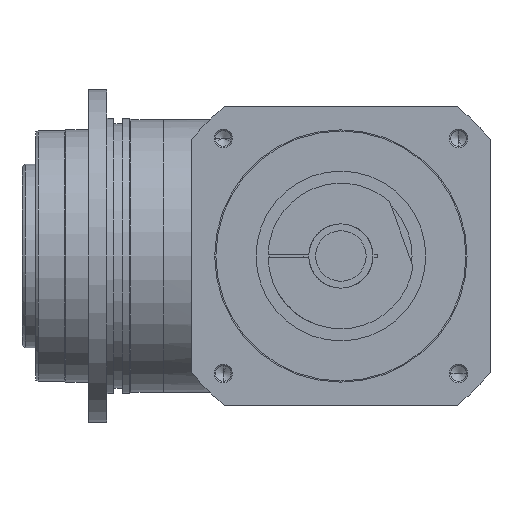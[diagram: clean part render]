
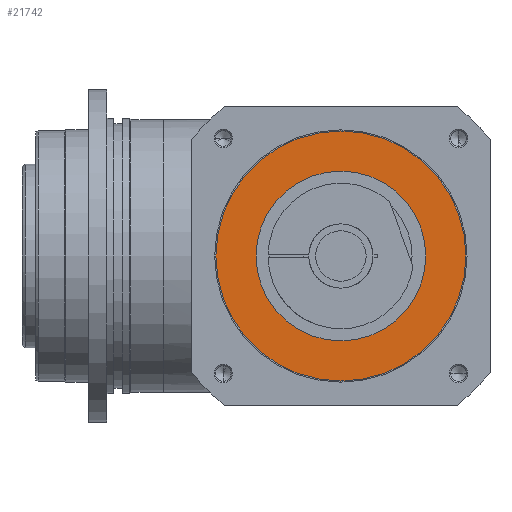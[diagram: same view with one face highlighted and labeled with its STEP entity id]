
A CAD part, front view. The second image highlights one B-rep face of the part: STEP entity #21742.
In plain terms, the highlighted planar face has unit normal (0, -1, 0).
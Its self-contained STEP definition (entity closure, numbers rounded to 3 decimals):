
#107 = FACE_BOUND ( 'NONE', #5417, .T. ) ;
#225 = DIRECTION ( 'NONE',  ( 0., 0., 1. ) ) ;
#653 = CIRCLE ( 'NONE', #7243, 54.5 ) ;
#1167 = EDGE_CURVE ( 'NONE', #18588, #18134, #13008, .T. ) ;
#1275 = FACE_OUTER_BOUND ( 'NONE', #15129, .T. ) ;
#1525 = AXIS2_PLACEMENT_3D ( 'NONE', #10278, #6584, #2664 ) ;
#1542 = EDGE_CURVE ( 'NONE', #15206, #21410, #653, .T. ) ;
#1938 = CARTESIAN_POINT ( 'NONE',  ( 77.5, -120.5, 37. ) ) ;
#2664 = DIRECTION ( 'NONE',  ( 0., 0., 1. ) ) ;
#2848 = CARTESIAN_POINT ( 'NONE',  ( 77.5, -120.5, 0. ) ) ;
#4699 = CARTESIAN_POINT ( 'NONE',  ( 77.5, -120.5, 0. ) ) ;
#4783 = DIRECTION ( 'NONE',  ( 0., 1., 0. ) ) ;
#5126 = CARTESIAN_POINT ( 'NONE',  ( 77.5, -120.5, -37. ) ) ;
#5414 = CIRCLE ( 'NONE', #16588, 54.5 ) ;
#5417 = EDGE_LOOP ( 'NONE', ( #20786, #14919 ) ) ;
#5442 = CARTESIAN_POINT ( 'NONE',  ( 77.5, -120.5, 0. ) ) ;
#5945 = CARTESIAN_POINT ( 'NONE',  ( 77.5, -120.5, 0. ) ) ;
#6584 = DIRECTION ( 'NONE',  ( 0., 1., 0. ) ) ;
#6702 = DIRECTION ( 'NONE',  ( 0., 0., 1. ) ) ;
#7243 = AXIS2_PLACEMENT_3D ( 'NONE', #5945, #20891, #225 ) ;
#8569 = DIRECTION ( 'NONE',  ( 0., 1., 0. ) ) ;
#9820 = AXIS2_PLACEMENT_3D ( 'NONE', #5442, #11199, #24354 ) ;
#10278 = CARTESIAN_POINT ( 'NONE',  ( 77.5, -120.5, -37. ) ) ;
#11199 = DIRECTION ( 'NONE',  ( 0., 1., 0. ) ) ;
#11572 = EDGE_CURVE ( 'NONE', #18134, #18588, #22931, .T. ) ;
#13008 = CIRCLE ( 'NONE', #13672, 37. ) ;
#13672 = AXIS2_PLACEMENT_3D ( 'NONE', #4699, #8569, #21712 ) ;
#14919 = ORIENTED_EDGE ( 'NONE', *, *, #1167, .T. ) ;
#15129 = EDGE_LOOP ( 'NONE', ( #21740, #15235 ) ) ;
#15206 = VERTEX_POINT ( 'NONE', #23310 ) ;
#15235 = ORIENTED_EDGE ( 'NONE', *, *, #20017, .F. ) ;
#16588 = AXIS2_PLACEMENT_3D ( 'NONE', #2848, #4783, #6702 ) ;
#17831 = PLANE ( 'NONE',  #1525 ) ;
#18134 = VERTEX_POINT ( 'NONE', #1938 ) ;
#18588 = VERTEX_POINT ( 'NONE', #5126 ) ;
#20017 = EDGE_CURVE ( 'NONE', #21410, #15206, #5414, .T. ) ;
#20028 = CARTESIAN_POINT ( 'NONE',  ( 77.5, -120.5, -54.5 ) ) ;
#20786 = ORIENTED_EDGE ( 'NONE', *, *, #11572, .T. ) ;
#20891 = DIRECTION ( 'NONE',  ( 0., 1., 0. ) ) ;
#21410 = VERTEX_POINT ( 'NONE', #20028 ) ;
#21712 = DIRECTION ( 'NONE',  ( 0., 0., 1. ) ) ;
#21740 = ORIENTED_EDGE ( 'NONE', *, *, #1542, .F. ) ;
#21742 = ADVANCED_FACE ( 'NONE', ( #1275, #107 ), #17831, .F. ) ;
#22931 = CIRCLE ( 'NONE', #9820, 37. ) ;
#23310 = CARTESIAN_POINT ( 'NONE',  ( 77.5, -120.5, 54.5 ) ) ;
#24354 = DIRECTION ( 'NONE',  ( 0., 0., 1. ) ) ;
